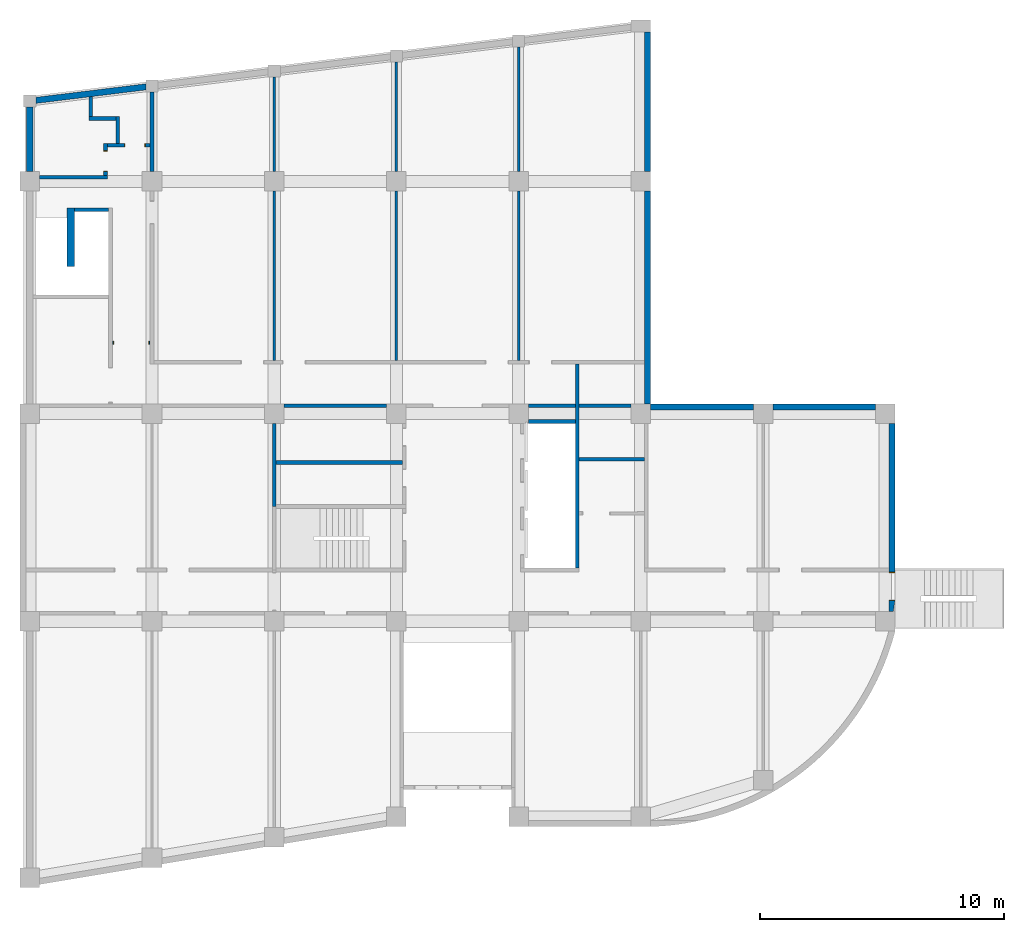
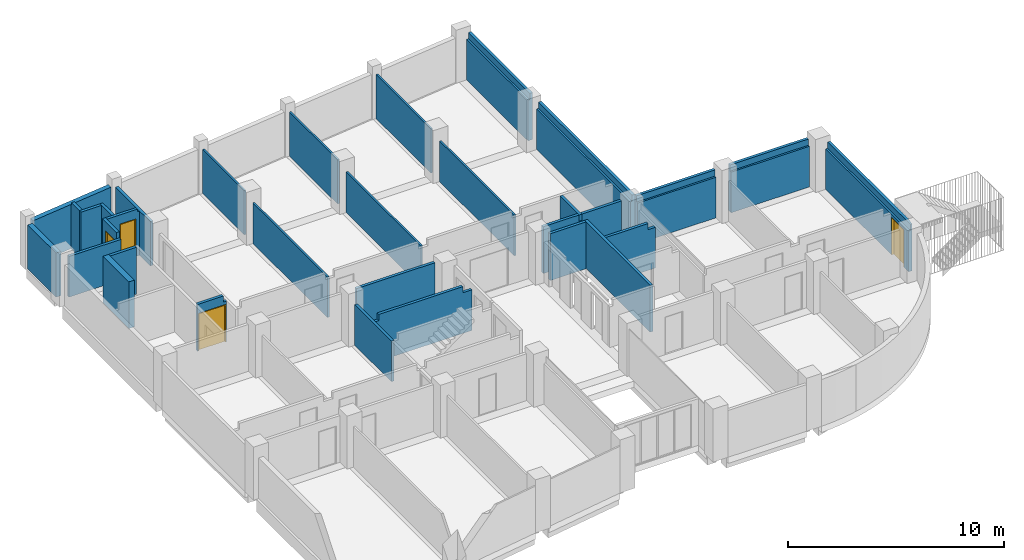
# One storey, part 6 of 7: 30 walls, 4 doors, 4 openings.
"""IFC2X3 building model written with IfcOpenShell, lengths in millimetres."""

from ifc_helpers import new_model, entity, si_unit, converted_unit, derived_unit, money_unit, direction, frame, origin_with_axes, place, context, subcontext, project, spatial, open_shell, faceted_brep, surface_model, material, type_object, element, fill, save


model = new_model("IFC2X3")

# Units and contexts
model_context = context("Model", 3, precision=0.01, world=origin_with_axes(), true_north=direction((0.0, 1.0)))
body_context = subcontext(model_context, "Body", "Model", "MODEL_VIEW")
ifc_project = project(units=[si_unit("LENGTHUNIT", "METRE", prefix="MILLI"), si_unit("AREAUNIT", "SQUARE_METRE"), si_unit("VOLUMEUNIT", "CUBIC_METRE"), converted_unit("PLANEANGLEUNIT", "DEGREE", entity("IfcPlaneAngleMeasure", 0.0174532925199), si_unit("PLANEANGLEUNIT", "RADIAN"), dimensions=[0, 0, 0, 0, 0, 0, 0]), si_unit("SOLIDANGLEUNIT", "STERADIAN"), money_unit("JPY"), converted_unit("TIMEUNIT", "Year", entity("IfcTimeMeasure", 31556926.0), si_unit("TIMEUNIT", "SECOND"), dimensions=[0, 0, 1, 0, 0, 0, 0]), si_unit("MASSUNIT", "GRAM", prefix="KILO"), si_unit("THERMODYNAMICTEMPERATUREUNIT", "DEGREE_CELSIUS"), si_unit("LUMINOUSINTENSITYUNIT", "LUMEN"), si_unit("ENERGYUNIT", "JOULE", prefix="MEGA"), derived_unit("THERMALCONDUCTANCEUNIT", [(si_unit("POWERUNIT", "WATT"), 1), (si_unit("LENGTHUNIT", "METRE"), -1), (si_unit("THERMODYNAMICTEMPERATUREUNIT", "KELVIN"), -1)]), derived_unit("SPECIFICHEATCAPACITYUNIT", [(si_unit("ENERGYUNIT", "JOULE"), 1), (si_unit("MASSUNIT", "GRAM", prefix="KILO"), -1), (si_unit("THERMODYNAMICTEMPERATUREUNIT", "KELVIN"), -1)]), derived_unit("MASSDENSITYUNIT", [(si_unit("MASSUNIT", "GRAM", prefix="KILO"), 1), (si_unit("VOLUMEUNIT", "CUBIC_METRE"), -1)])], contexts=[model_context])

# Site, building, storey
site_placement = place(None, origin_with_axes())
site = spatial("IfcSite", under=ifc_project, at=site_placement, Name="サイト", CompositionType="ELEMENT")
building_placement = place(site_placement, origin_with_axes())
building = spatial("IfcBuilding", under=site, at=building_placement, Name="建築", CompositionType="ELEMENT")
storey_placement = place(building_placement, frame((0.0, 0.0, 3000.0), z_axis=(0.0, 0.0, 1.0), x_axis=(1.0, 0.0, 0.0)))
storey = spatial("IfcBuildingStorey", under=building, at=storey_placement, Name="2FL", CompositionType="ELEMENT", Elevation=3000.0)

# Walls
ifc_material_1 = material(Name="コンクリート")
wall_type_1 = type_object("IfcWallType", Name="コンクリート 150", PredefinedType="NOTDEFINED")
wall_1_placement = place(storey_placement, frame((20150.0, 8175.0, 0.0), z_axis=(0.0, 0.0, 1.0), x_axis=(1.0, 0.0, 0.0)))
element("IfcWall", 1, at=wall_1_placement, inside=storey, type_object=wall_type_1, material=ifc_material_1, Name="W8", context=body_context, shape_type="Brep", body=[
    faceted_brep([(2175.0, 75.0, 0.0), (250.0, 75.0, 0.0), (250.0, 75.0, 2650.0), (2175.0, 75.0, 2650.0), (2175.0, -75.0, 0.0), (250.0, -75.0, 0.0), (250.0, -75.0, 2650.0), (2175.0, -75.0, 2650.0)], [[[0, 1, 2, 3]], [[4, 5, 1, 0]], [[5, 6, 2, 1]], [[3, 2, 6, 7]], [[7, 4, 0, 3]], [[7, 6, 5, 4]]]),
])
wall_2_placement = place(storey_placement, frame((10000.0, 6500.0, 0.0), z_axis=(0.0, 0.0, 1.0), x_axis=(1.0, 0.0, 0.0)))
element("IfcWall", 2, at=wall_2_placement, inside=storey, type_object=wall_type_1, material=ifc_material_1, Name="W5", context=body_context, shape_type="Brep", body=[
    faceted_brep([(75.0, 75.0, 0.0), (75.0, 75.0, 2300.0), (250.0, 75.0, 2300.0), (250.0, 75.0, 2650.0), (4750.0, 75.0, 2650.0), (4750.0, 75.0, 2300.0), (5250.0, 75.0, 2300.0), (5249.99999555, 75.0, 0.0), (75.0, -75.0, 0.0), (75.0, -75.0, 2300.0), (250.0, -75.0, 2300.0), (250.0, -75.0, 2650.0), (4750.0, -75.0, 2650.0), (4750.0, -75.0, 2300.0), (5250.0, -75.0, 2300.0), (5249.99999555, -75.0, 0.0)], [[[0, 1, 2, 3, 4, 5, 6, 7]], [[8, 9, 1, 0]], [[10, 2, 1, 9]], [[10, 11, 3, 2]], [[4, 3, 11, 12]], [[13, 5, 4, 12]], [[13, 14, 6, 5]], [[7, 6, 14, 15]], [[8, 0, 7, 15]], [[11, 10, 9, 8, 15, 14, 13, 12]]]),
])

# Wall, opening, door
wall_3_placement = place(storey_placement, frame((5000.0, 11400.0, 0.0), z_axis=(0.0, 0.0, 1.0), x_axis=(-1.0, 0.0, 0.0)))
wall_3 = element("IfcWall", 3, at=wall_3_placement, inside=storey, type_object=wall_type_1, material=ifc_material_1, Name="W9", context=body_context, shape_type="Brep", body=[
    faceted_brep([(1580.0, -75.0, 2130.0), (1580.0, -75.0, 0.0), (1625.0, -75.0, 0.0), (1625.0, -75.0, 2650.0), (250.0, -75.0, 2650.0), (250.0, -75.0, 2300.0), (75.0, -75.0, 2300.0), (75.0, -75.0, 0.0), (120.0, -75.0, 0.0), (120.0, -75.0, 2130.0), (1580.0, 75.0, 2130.0), (1580.0, 75.0, 0.0), (1625.0, 75.0, 0.0), (1625.0, 75.0, 2650.0), (250.0, 75.0, 2650.0), (250.0, 75.0, 2300.0), (75.0, 75.0, 2300.0), (75.0, 75.0, 0.0), (120.0, 75.0, 0.0), (120.0, 75.0, 2130.0)], [[[0, 1, 2, 3, 4, 5, 6, 7, 8, 9]], [[1, 0, 10, 11]], [[1, 11, 12, 2]], [[12, 13, 3, 2]], [[14, 4, 3, 13]], [[5, 4, 14, 15]], [[16, 6, 5, 15]], [[6, 16, 17, 7]], [[18, 8, 7, 17]], [[9, 8, 18, 19]], [[0, 9, 19, 10]], [[19, 18, 17, 16, 15, 14, 13, 12, 11, 10]]]),
])
opening_1_placement = place(wall_3_placement, frame((850.0, 0.0, 0.0), z_axis=(0.0, 0.0, 1.0), x_axis=(1.0, 0.0, 0.0)))
opening_1 = element("IfcOpeningElement", 4, at=opening_1_placement, cuts=wall_3, Name="SD3", context=body_context, shape_type="Brep", body=[
    faceted_brep([(-730.0, -160.0, 0.0), (-730.0, -160.0, 2130.0), (-730.0, 160.0, 2130.0), (-730.0, 160.0, 0.0), (730.0, -160.0, 0.0), (730.0, -160.0, 2130.0), (730.0, 160.0, 2130.0), (730.0, 160.0, 0.0)], [[[0, 1, 2, 3]], [[0, 4, 5, 1]], [[1, 5, 6, 2]], [[3, 2, 6, 7]], [[4, 0, 3, 7]], [[5, 4, 7, 6]]]),
])
door_style = type_object("IfcDoorStyle", Name="片開き戸", ConstructionType="NOTDEFINED", OperationType="NOTDEFINED", ParameterTakesPrecedence=False, Sizeable=False)
door_1_placement = place(opening_1_placement, frame((700.0, 0.0, 0.0), z_axis=(0.0, 0.0, 1.0), x_axis=(-1.0, 0.0, 0.0)))
door_1 = element("IfcDoor", 5, at=door_1_placement, inside=storey, type_object=door_style, Name="SD3", OverallHeight=2165.0, OverallWidth=1530.0, context=body_context, shape_type="SurfaceModel", body=[
    surface_model("IfcShellBasedSurfaceModel", [(1400.0, 0.0, 0.0), (0.0, 0.0, 0.0), (0.0, 0.0, 2100.0), (1400.0, 0.0, 2100.0)], [open_shell([[[0, 1, 2, 3]]])]),
    surface_model("IfcShellBasedSurfaceModel", [(1430.0, 75.0, 0.0), (1400.0, 75.0, 0.0), (1400.0, 75.0, 2100.0), (0.0, 75.0, 2100.0), (0.0, 75.0, 0.0), (-30.0, 75.0, 0.0), (-30.0, 75.0, 2130.0), (1430.0, 75.0, 2130.0)], [open_shell([[[0, 1, 2, 3, 4, 5, 6, 7]]])]),
    surface_model("IfcShellBasedSurfaceModel", [(1430.0, -75.0, 0.0), (1400.0, -75.0, 0.0), (1400.0, -75.0, 2100.0), (0.0, -75.0, 2100.0), (0.0, -75.0, 0.0), (-30.0, -75.0, 0.0), (-30.0, -75.0, 2130.0), (1430.0, -75.0, 2130.0)], [open_shell([[[0, 1, 2, 3, 4, 5, 6, 7]]])]),
    surface_model("IfcShellBasedSurfaceModel", [(1400.0, 75.0, 0.0), (1400.0, -75.0, 0.0), (1400.0, -75.0, 2100.0), (1400.0, 75.0, 2100.0), (1430.0, 75.0, 0.0), (1430.0, -75.0, 0.0), (0.0, -75.0, 2100.0), (0.0, 75.0, 2100.0), (1430.0, 75.0, 2130.0), (1430.0, -75.0, 2130.0), (0.0, -75.0, 0.0), (0.0, 75.0, 0.0), (-30.0, 75.0, 2130.0), (-30.0, -75.0, 2130.0), (-30.0, -75.0, 0.0), (-30.0, 75.0, 0.0)], [open_shell([[[0, 1, 2, 3]], [[4, 5, 1, 0]], [[3, 2, 6, 7]], [[8, 9, 5, 4]], [[7, 6, 10, 11]], [[12, 13, 9, 8]], [[11, 10, 14, 15]], [[15, 14, 13, 12]]])]),
])
fill(opening_1, door_1)

# Walls
wall_4_placement = place(storey_placement, frame((3300.0, 16832.5237799, 0.0), z_axis=(0.0, 0.0, 1.0), x_axis=(-1.0, 0.0, 0.0)))
element("IfcWall", 6, at=wall_4_placement, inside=storey, type_object=wall_type_1, material=ifc_material_1, Name="W9", context=body_context, shape_type="Brep", body=[
    faceted_brep([(1475.0, -75.0, 0.0), (1475.0, -75.0, 2650.0), (75.0, -75.0, 2650.0), (75.0, -75.0, 0.0), (1475.0, 75.0, 0.0), (1475.0, 75.0, 2650.0), (75.0, 75.0, 2650.0), (75.0, 75.0, 0.0)], [[[0, 1, 2, 3]], [[4, 5, 1, 0]], [[5, 6, 2, 1]], [[3, 2, 6, 7]], [[7, 4, 0, 3]], [[7, 6, 5, 4]]]),
])
wall_5_placement = place(storey_placement, frame((10000.0, 4700.0, 0.0), z_axis=(0.0, 0.0, 1.0), x_axis=(0.0, 1.0, 0.0)))
element("IfcWall", 7, at=wall_5_placement, inside=storey, type_object=wall_type_1, material=ifc_material_1, Name="W1", context=body_context, shape_type="Brep", body=[
    faceted_brep([(0.0, -75.0, 0.0), (3400.0, -75.0, 0.0), (3400.0, -75.0, 2300.0), (0.0, -75.0, 2300.0), (0.0, 75.0, 0.0), (3400.0, 75.0, 0.0), (3400.0, 75.0, 2300.0), (0.0, 75.0, 2300.0)], [[[0, 1, 2, 3]], [[4, 5, 1, 0]], [[5, 6, 2, 1]], [[3, 2, 6, 7]], [[4, 0, 3, 7]], [[7, 6, 5, 4]]]),
])
wall_6_placement = place(storey_placement, frame((0.0, 18174.9999927, 0.0), z_axis=(0.0, 0.0, 1.0), x_axis=(1.0, 0.0, 0.0)))
element("IfcWall", 8, at=wall_6_placement, inside=storey, type_object=wall_type_1, material=ifc_material_1, Name="W1", context=body_context, shape_type="Brep", body=[
    faceted_brep([(3175.0, 75.0, 0.0), (400.0, 75.0, 0.0), (400.0, 75.0000072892, 2300.0), (3175.0, 75.0000072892, 2300.0), (3175.0, -75.0, 0.0), (400.0, -75.0, 0.0), (400.0, -75.0, 2300.0), (3175.0, -75.0, 2300.0)], [[[0, 1, 2, 3]], [[4, 5, 1, 0]], [[5, 6, 2, 1]], [[3, 2, 6, 7]], [[4, 0, 3, 7]], [[7, 6, 5, 4]]]),
])
wall_7_placement = place(storey_placement, frame((22400.0, 2100.0, 0.0), z_axis=(0.0, 0.0, 1.0), x_axis=(0.0, 1.0, 0.0)))
element("IfcWall", 9, at=wall_7_placement, inside=storey, type_object=wall_type_1, material=ifc_material_1, Name="W8", context=body_context, shape_type="Brep", body=[
    faceted_brep([(8425.0, 75.0, 2650.0), (6650.0, 75.0, 2650.0), (6650.0, -75.0, 2650.0), (8425.0, -75.0, 2650.0), (6150.0, 75.0, 2300.0), (6650.0, 75.0, 2300.0), (8425.0, 75.0, 0.0), (75.0, 75.0, 0.0), (75.0, 75.0, 2650.0), (6150.0, 75.0, 2650.0), (6650.0, -75.0, 2300.0), (6150.0, -75.0, 2300.0), (6150.0, -75.0, 2650.0), (75.0, -75.0, 2650.0), (75.0, -75.0, 0.0), (8425.0, -75.0, 0.0)], [[[0, 1, 2, 3]], [[4, 5, 1, 0, 6, 7, 8, 9]], [[5, 10, 2, 1]], [[10, 11, 12, 13, 14, 15, 3, 2]], [[15, 6, 0, 3]], [[4, 11, 10, 5]], [[14, 7, 6, 15]], [[7, 14, 13, 8]], [[13, 12, 9, 8]], [[4, 9, 12, 11]]]),
])
wall_8_placement = place(storey_placement, frame((22400.0, 6625.000045, 0.0), z_axis=(0.0, 0.0, 1.0), x_axis=(1.0, 0.0, 0.0)))
element("IfcWall", 10, at=wall_8_placement, inside=storey, type_object=wall_type_1, material=ifc_material_1, Name="W8", context=body_context, shape_type="Brep", body=[
    faceted_brep([(75.0, 75.0, 2650.0), (2350.0, 75.0, 2650.0), (2350.0, 75.0, 2300.0), (2749.9999795, 75.0, 2300.0), (2749.9999795, 75.0, 0.0), (75.0, 75.0, 0.0), (75.0, -75.0, 2650.0), (2350.0, -75.0, 2650.0), (2350.0, -75.0, 2300.0), (2749.9999795, -75.0, 2300.0), (2749.9999795, -75.0, 0.0), (75.0, -75.0, 0.0)], [[[0, 1, 2, 3, 4, 5]], [[6, 7, 1, 0]], [[8, 2, 1, 7]], [[8, 9, 3, 2]], [[4, 3, 9, 10]], [[11, 5, 4, 10]], [[5, 11, 6, 0]], [[9, 8, 7, 6, 11, 10]]]),
])
wall_9_placement = place(storey_placement, frame((20000.0, 8825.000045, 0.0), z_axis=(0.0, 0.0, 1.0), x_axis=(1.0, 0.0, 0.0)))
element("IfcWall", 11, at=wall_9_placement, inside=storey, type_object=wall_type_1, material=ifc_material_1, Name="W6", context=body_context, shape_type="Brep", body=[
    faceted_brep([(2325.0, 75.0, 0.0), (400.0, 74.999955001, 0.0), (400.0, 74.999955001, 2650.0), (2325.0, 75.0, 2650.0), (2325.0, -75.0, 0.0), (400.0, -75.0, 0.0), (400.0, -75.0, 2650.0), (2325.0, -75.0, 2650.0)], [[[0, 1, 2, 3]], [[4, 5, 1, 0]], [[5, 6, 2, 1]], [[3, 2, 6, 7]], [[7, 4, 0, 3]], [[7, 6, 5, 4]]]),
    faceted_brep([(2475.0, -75.0, 2650.0), (4600.0, -75.000042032, 2650.0), (4600.0, 74.999955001, 2650.0), (2475.0, 75.0, 2650.0), (2475.0, -75.0, 0.0), (4600.0, -75.0, 0.0), (4600.0, 74.999955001, 0.0), (2475.0, 75.0, 0.0)], [[[0, 1, 2, 3]], [[4, 5, 1, 0]], [[5, 6, 2, 1]], [[3, 2, 6, 7]], [[3, 7, 4, 0]], [[7, 6, 5, 4]]]),
])
wall_10_placement = place(storey_placement, frame((15000.0, 8825.000045, 0.0), z_axis=(0.0, 0.0, 1.0), x_axis=(-1.0, 0.0, 0.0)))
element("IfcWall", 12, at=wall_10_placement, inside=storey, type_object=wall_type_1, material=ifc_material_1, Name="W8", context=body_context, shape_type="Brep", body=[
    faceted_brep([(4600.0, 75.0, 2650.0), (400.0, 75.0, 2650.0), (400.0, -74.999955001, 2650.0), (4600.0, -74.999955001, 2650.0), (4600.0, 75.0, 0.0), (400.0, 75.0, 0.0), (400.0, -74.999955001, 0.0), (4600.0, -74.999955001, 0.0)], [[[0, 1, 2, 3]], [[4, 5, 1, 0]], [[5, 6, 2, 1]], [[3, 2, 6, 7]], [[4, 0, 3, 7]], [[7, 6, 5, 4]]]),
])
wall_11_placement = place(storey_placement, frame((5000.0, 21896.9524811, 0.0), z_axis=(0.0, 0.0, 1.0), x_axis=(0.0, -1.0, 0.0)))
element("IfcWall", 13, at=wall_11_placement, inside=storey, type_object=wall_type_1, material=ifc_material_1, Name="W1", context=body_context, shape_type="Brep", body=[
    faceted_brep([(250.0, -75.0, 2500.0), (3496.95248113, -75.0, 2500.0), (3496.95248113, 75.0, 2500.0), (250.0, 75.0, 2500.0), (250.0, -75.0, 0.0), (3496.95248113, -75.0, 0.0), (3496.95248113, 75.0, 0.0), (250.0, 75.0, 0.0)], [[[0, 1, 2, 3]], [[4, 5, 1, 0]], [[5, 6, 2, 1]], [[3, 2, 6, 7]], [[4, 0, 3, 7]], [[7, 6, 5, 4]]]),
])

# Wall, opening, door
wall_12_placement = place(storey_placement, frame((3100.0, 18174.9999927, 0.0), z_axis=(0.0, 0.0, 1.0), x_axis=(0.0, 1.0, 0.0)))
wall_12 = element("IfcWall", 14, at=wall_12_placement, inside=storey, type_object=wall_type_1, material=ifc_material_1, Name="W1", context=body_context, shape_type="Brep", body=[
    faceted_brep([(220.0, -75.0, 0.0), (220.0, -75.0, 2130.0), (1080.0, -75.0, 2130.0), (1080.0, -75.0, 0.0), (1375.0, -75.0, 0.0), (1375.0, -75.0, 2650.0), (75.0, -75.0, 2650.0), (75.0, -75.0, 0.0), (220.0, 75.0, 0.0), (220.0, 75.0, 2130.0), (1080.0, 75.0, 2130.0), (1080.0, 75.0, 0.0), (1375.0, 75.0, 0.0), (1375.0, 75.0, 2650.0), (75.0, 75.0, 2650.0), (75.0, 75.0, 0.0)], [[[0, 1, 2, 3, 4, 5, 6, 7]], [[1, 0, 8, 9]], [[2, 1, 9, 10]], [[3, 2, 10, 11]], [[3, 11, 12, 4]], [[12, 13, 5, 4]], [[6, 5, 13, 14]], [[7, 6, 14, 15]], [[8, 0, 7, 15]], [[9, 8, 15, 14, 13, 12, 11, 10]]]),
])
opening_2_placement = place(wall_12_placement, frame((650.0, 0.0, 0.0), z_axis=(0.0, 0.0, 1.0), x_axis=(1.0, 0.0, 0.0)))
opening_2 = element("IfcOpeningElement", 15, at=opening_2_placement, cuts=wall_12, Name="SD4", context=body_context, shape_type="Brep", body=[
    faceted_brep([(-430.0, -160.0, 0.0), (-430.0, -160.0, 2130.0), (-430.0, 160.0, 2130.0), (-430.0, 160.0, 0.0), (430.0, -160.0, 0.0), (430.0, -160.0, 2130.0), (430.0, 160.0, 2130.0), (430.0, 160.0, 0.0)], [[[0, 1, 2, 3]], [[0, 4, 5, 1]], [[1, 5, 6, 2]], [[3, 2, 6, 7]], [[4, 0, 3, 7]], [[5, 4, 7, 6]]]),
])
door_2_placement = place(opening_2_placement, frame((-400.0, 0.0, 0.0), z_axis=(0.0, 0.0, 1.0), x_axis=(1.0, 0.0, 0.0)))
door_2 = element("IfcDoor", 16, at=door_2_placement, inside=storey, type_object=door_style, Name="SD4", OverallHeight=2165.0, OverallWidth=930.0, context=body_context, shape_type="SurfaceModel", body=[
    surface_model("IfcShellBasedSurfaceModel", [(0.0, 0.0, 0.0), (0.0, 0.0, 2100.0), (800.0, 0.0, 2100.0), (800.0, 0.0, 0.0)], [open_shell([[[0, 1, 2, 3]]])]),
    surface_model("IfcShellBasedSurfaceModel", [(-30.0, 75.0, 0.0), (-30.0, 75.0, 2130.0), (830.0, 75.0, 2130.0), (830.0, 75.0, 0.0), (800.0, 75.0, 0.0), (800.0, 75.0, 2100.0), (0.0, 75.0, 2100.0), (0.0, 75.0, 0.0)], [open_shell([[[0, 1, 2, 3, 4, 5, 6, 7]]])]),
    surface_model("IfcShellBasedSurfaceModel", [(-30.0, -75.0, 0.0), (-30.0, -75.0, 2130.0), (830.0, -75.0, 2130.0), (830.0, -75.0, 0.0), (800.0, -75.0, 0.0), (800.0, -75.0, 2100.0), (0.0, -75.0, 2100.0), (0.0, -75.0, 0.0)], [open_shell([[[0, 1, 2, 3, 4, 5, 6, 7]]])]),
    surface_model("IfcShellBasedSurfaceModel", [(0.0, 75.0, 0.0), (0.0, 75.0, 2100.0), (0.0, -75.0, 2100.0), (0.0, -75.0, 0.0), (800.0, 75.0, 2100.0), (800.0, -75.0, 2100.0), (-30.0, 75.0, 0.0), (-30.0, -75.0, 0.0), (800.0, 75.0, 0.0), (800.0, -75.0, 0.0), (-30.0, 75.0, 2130.0), (-30.0, -75.0, 2130.0), (830.0, 75.0, 0.0), (830.0, -75.0, 0.0), (830.0, 75.0, 2130.0), (830.0, -75.0, 2130.0)], [open_shell([[[0, 1, 2, 3]], [[1, 4, 5, 2]], [[6, 0, 3, 7]], [[4, 8, 9, 5]], [[10, 6, 7, 11]], [[8, 12, 13, 9]], [[14, 10, 11, 15]], [[12, 14, 15, 13]]])]),
])
fill(opening_2, door_2)

wall_13_placement = place(storey_placement, frame((3100.0, 19474.9999927, 0.0), z_axis=(0.0, 0.0, 1.0), x_axis=(1.0, 0.0, 0.0)))
wall_13 = element("IfcWall", 17, at=wall_13_placement, inside=storey, type_object=wall_type_1, material=ifc_material_1, Name="W2", context=body_context, shape_type="Brep", body=[
    faceted_brep([(770.0, 75.0, 2130.0), (770.0, 75.0, 0.0), (75.0, 75.0, 0.0), (75.0, 75.0, 2650.0), (1700.0, 75.0, 2650.0), (1700.0, 75.0, 2500.0), (1825.0, 75.0, 2500.0), (1825.0, 75.0, 0.0), (1630.0, 75.0, 0.0), (1630.0, 75.0, 2130.0), (770.0, -75.0, 2130.0), (770.0, -75.0, 0.0), (75.0, -75.0, 0.0), (75.0, -75.0, 2650.0), (1700.0, -75.0, 2650.0), (1700.0, -75.0, 2500.0), (1825.0, -75.0, 2500.0), (1825.0, -75.0, 0.0), (1630.0, -75.0, 0.0), (1630.0, -75.0, 2130.0)], [[[0, 1, 2, 3, 4, 5, 6, 7, 8, 9]], [[1, 0, 10, 11]], [[1, 11, 12, 2]], [[12, 13, 3, 2]], [[14, 4, 3, 13]], [[5, 4, 14, 15]], [[16, 6, 5, 15]], [[6, 16, 17, 7]], [[18, 8, 7, 17]], [[9, 8, 18, 19]], [[0, 9, 19, 10]], [[19, 18, 17, 16, 15, 14, 13, 12, 11, 10]]]),
])
opening_3_placement = place(wall_13_placement, frame((1200.0, 0.0, 0.0), z_axis=(0.0, 0.0, 1.0), x_axis=(1.0, 0.0, 0.0)))
opening_3 = element("IfcOpeningElement", 18, at=opening_3_placement, cuts=wall_13, Name="SD3", context=body_context, shape_type="Brep", body=[
    faceted_brep([(430.0, 160.0, 0.0), (430.0, 160.0, 2130.0), (430.0, -160.0, 2130.0), (430.0, -160.0, 0.0), (-430.0, 160.0, 0.0), (-430.0, 160.0, 2130.0), (-430.0, -160.0, 2130.0), (-430.0, -160.0, 0.0)], [[[0, 1, 2, 3]], [[0, 4, 5, 1]], [[1, 5, 6, 2]], [[3, 2, 6, 7]], [[4, 0, 3, 7]], [[5, 4, 7, 6]]]),
])
door_3_placement = place(opening_3_placement, frame((-400.0, 0.0, 0.0), z_axis=(0.0, 0.0, 1.0), x_axis=(1.0, 0.0, 0.0)))
door_3 = element("IfcDoor", 19, at=door_3_placement, inside=storey, type_object=door_style, Name="SD3", OverallHeight=2165.0, OverallWidth=930.0, context=body_context, shape_type="SurfaceModel", body=[
    surface_model("IfcShellBasedSurfaceModel", [(800.0, 0.0, 0.0), (0.0, 0.0, 0.0), (0.0, 0.0, 2100.0), (800.0, 0.0, 2100.0)], [open_shell([[[0, 1, 2, 3]]])]),
    surface_model("IfcShellBasedSurfaceModel", [(830.0, 75.0, 0.0), (800.0, 75.0, 0.0), (800.0, 75.0, 2100.0), (0.0, 75.0, 2100.0), (0.0, 75.0, 0.0), (-30.0, 75.0, 0.0), (-30.0, 75.0, 2130.0), (830.0, 75.0, 2130.0)], [open_shell([[[0, 1, 2, 3, 4, 5, 6, 7]]])]),
    surface_model("IfcShellBasedSurfaceModel", [(830.0, -75.0, 0.0), (800.0, -75.0, 0.0), (800.0, -75.0, 2100.0), (0.0, -75.0, 2100.0), (0.0, -75.0, 0.0), (-30.0, -75.0, 0.0), (-30.0, -75.0, 2130.0), (830.0, -75.0, 2130.0)], [open_shell([[[0, 1, 2, 3, 4, 5, 6, 7]]])]),
    surface_model("IfcShellBasedSurfaceModel", [(800.0, 75.0, 0.0), (800.0, -75.0, 0.0), (800.0, -75.0, 2100.0), (800.0, 75.0, 2100.0), (830.0, 75.0, 0.0), (830.0, -75.0, 0.0), (0.0, -75.0, 2100.0), (0.0, 75.0, 2100.0), (830.0, 75.0, 2130.0), (830.0, -75.0, 2130.0), (0.0, -75.0, 0.0), (0.0, 75.0, 0.0), (-30.0, 75.0, 2130.0), (-30.0, -75.0, 2130.0), (-30.0, -75.0, 0.0), (-30.0, 75.0, 0.0)], [open_shell([[[0, 1, 2, 3]], [[4, 5, 1, 0]], [[3, 2, 6, 7]], [[8, 9, 5, 4]], [[7, 6, 10, 11]], [[12, 13, 9, 8]], [[11, 10, 14, 15]], [[15, 14, 13, 12]]])]),
])
fill(opening_3, door_3)

# Walls
wall_14_placement = place(storey_placement, frame((3600.0, 19474.9999927, 0.0), z_axis=(0.0, 0.0, 1.0), x_axis=(0.0, 1.0, 0.0)))
element("IfcWall", 20, at=wall_14_placement, inside=storey, type_object=wall_type_1, material=ifc_material_1, Name="W3", context=body_context, shape_type="Brep", body=[
    faceted_brep([(1175.0, 75.0, 0.0), (1175.0, 75.0, 2650.0), (1175.0, -75.0, 2650.0), (1175.0, -75.0, 0.0), (75.0, 75.0, 0.0), (75.0, 75.0, 2650.0), (75.0, -75.0, 2650.0), (75.0, -75.0, 0.0)], [[[0, 1, 2, 3]], [[4, 5, 1, 0]], [[5, 6, 2, 1]], [[3, 2, 6, 7]], [[4, 0, 3, 7]], [[7, 6, 5, 4]]]),
])
wall_15_placement = place(storey_placement, frame((3600.0, 20574.9999927, 0.0), z_axis=(0.0, 0.0, 1.0), x_axis=(-1.0, 0.0, 0.0)))
element("IfcWall", 21, at=wall_15_placement, inside=storey, type_object=wall_type_1, material=ifc_material_1, Name="W4", context=body_context, shape_type="Brep", body=[
    faceted_brep([(1175.0, -75.0, 0.0), (1175.0, -75.0, 2650.0), (75.0, -75.0, 2650.0), (75.0, -75.0, 0.0), (1175.0, 75.0, 0.0), (1175.0, 75.0, 2650.0), (75.0, 75.0, 2650.0), (75.0, 75.0, 0.0)], [[[0, 1, 2, 3]], [[4, 5, 1, 0]], [[5, 6, 2, 1]], [[3, 2, 6, 7]], [[7, 4, 0, 3]], [[7, 6, 5, 4]]]),
])
wall_16_placement = place(storey_placement, frame((2500.0, 20574.9999927, 0.0), z_axis=(0.0, 0.0, 1.0), x_axis=(0.0, 1.0, 0.0)))
element("IfcWall", 22, at=wall_16_placement, inside=storey, type_object=wall_type_1, material=ifc_material_1, Name="W5", context=body_context, shape_type="Brep", body=[
    faceted_brep([(879.843515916, 75.0, 0.0), (879.843515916, 75.0, 2500.0), (898.261200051, -75.0, 2500.0), (898.261200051, -75.0, 0.0), (804.280279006, 75.0, 2650.0), (804.280279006, 75.0, 2500.0), (75.0, 75.0, 0.0), (75.0, 75.0, 2650.0), (822.697963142, -75.0, 2500.0), (822.697963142, -75.0, 2650.0), (75.0, -75.0, 2650.0), (75.0, -75.0, 0.0)], [[[0, 1, 2, 3]], [[4, 5, 1, 0, 6, 7]], [[5, 8, 2, 1]], [[2, 8, 9, 10, 11, 3]], [[11, 6, 0, 3]], [[5, 4, 9, 8]], [[6, 11, 10, 7]], [[10, 9, 4, 7]]]),
])
wall_type_2 = type_object("IfcWallType", Name="コンクリート 250", PredefinedType="NOTDEFINED")
wall_17_placement = place(storey_placement, frame((30000.0, 8775.0, 0.0), z_axis=(0.0, 0.0, 1.0), x_axis=(-1.0, 0.0, 0.0)))
element("IfcWall", 23, at=wall_17_placement, inside=storey, type_object=wall_type_2, material=ifc_material_1, Name="W1", context=body_context, shape_type="Brep", body=[
    faceted_brep([(4600.0, 25.0, 2650.0), (400.0, 25.0, 2650.0), (400.0, -125.0, 2650.0), (4600.0, -125.0, 2650.0), (4600.0, 25.0, 2300.0), (400.0, 25.0, 2300.0), (400.0, 125.0, 0.0), (400.0, -125.0, 0.0), (400.0, 125.0, 2300.0), (4600.0, -125.0, 0.0), (4600.0, 125.0, 0.0), (4600.0, 125.0, 2300.0)], [[[0, 1, 2, 3]], [[4, 5, 1, 0]], [[6, 7, 2, 1, 5, 8]], [[3, 2, 7, 9]], [[4, 0, 3, 9, 10, 11]], [[11, 8, 5, 4]], [[9, 7, 6, 10]], [[10, 6, 8, 11]]]),
])

# Wall, opening, door
wall_18_placement = place(storey_placement, frame((35274.9999654, -400.0, 0.0), z_axis=(0.0, 0.0, 1.0), x_axis=(0.0, 1.0, 0.0)))
wall_18 = element("IfcWall", 24, at=wall_18_placement, inside=storey, type_object=wall_type_2, material=ifc_material_1, Name="W0", context=body_context, shape_type="Brep", body=[
    faceted_brep([(2408.94696441, -125.0, 2130.0), (2408.94696441, -125.0, 0.0), (8500.0, -125.000034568, 0.0), (8500.0, -125.000034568, 2650.0), (1267.79551643, -125.000004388, 2650.0), (1267.79551643, -125.0, 2130.0), (2408.94696441, 125.0, 2130.0), (2408.94696441, 125.0, 0.0), (8500.0, 125.0, 0.0), (8500.0, 125.0, 2300.0), (8500.0, 24.9999654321, 2300.0), (8500.0, 24.9999654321, 2650.0), (800.0, 24.9999654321, 2650.0), (800.0, -49.6592128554, 2650.0), (925.128562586, -72.9281833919, 2650.0), (1242.6191428, -121.906495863, 2650.0), (1248.94696441, -122.684016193, 2130.0), (1242.6191428, -121.906495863, 0.0), (1248.94696441, -122.684016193, 0.0), (1248.94696441, 125.0, 2130.0), (1248.94696441, 125.0, 0.0), (800.0, 125.0, 0.0), (800.0, 125.0, 2300.0), (800.0, 24.9999654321, 2300.0), (800.0, -49.6592128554, 0.0), (925.128562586, -72.9281833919, 0.0)], [[[0, 1, 2, 3, 4, 5]], [[1, 0, 6, 7]], [[1, 7, 8, 2]], [[9, 10, 11, 3, 2, 8]], [[3, 11, 12, 13, 14, 15, 4]], [[16, 5, 4, 15, 17, 18]], [[0, 5, 16, 19, 6]], [[19, 20, 21, 22, 9, 8, 7, 6]], [[10, 9, 22, 23]], [[11, 10, 23, 12]], [[22, 21, 24, 13, 12, 23]], [[25, 14, 13, 24]], [[15, 14, 25, 17]], [[20, 18, 17, 25, 24, 21]], [[16, 18, 20, 19]]]),
])
opening_4_placement = place(wall_18_placement, frame((1828.94696441, 0.0, 0.0), z_axis=(0.0, 0.0, 1.0), x_axis=(1.0, 0.0, 0.0)))
opening_4 = element("IfcOpeningElement", 25, at=opening_4_placement, cuts=wall_18, Name="FSD2", context=body_context, shape_type="Brep", body=[
    faceted_brep([(-580.0, -260.0, 0.0), (-580.0, -260.0, 2130.0), (-580.0, 260.0, 2130.0), (-580.0, 260.0, 0.0), (580.0, -260.0, 0.0), (580.0, -260.0, 2130.0), (580.0, 260.0, 2130.0), (580.0, 260.0, 0.0)], [[[0, 1, 2, 3]], [[0, 4, 5, 1]], [[1, 5, 6, 2]], [[3, 2, 6, 7]], [[4, 0, 3, 7]], [[5, 4, 7, 6]]]),
])
door_4_placement = place(opening_4_placement, frame((550.0, 0.0, 0.0), z_axis=(0.0, 0.0, 1.0), x_axis=(-1.0, 0.0, 0.0)))
door_4 = element("IfcDoor", 26, at=door_4_placement, inside=storey, type_object=door_style, Name="FSD2", OverallHeight=2165.0, OverallWidth=1230.0, context=body_context, shape_type="SurfaceModel", body=[
    surface_model("IfcShellBasedSurfaceModel", [(1100.0, 0.0, 0.0), (0.0, 0.0, 0.0), (0.0, 0.0, 2100.0), (1100.0, 0.0, 2100.0)], [open_shell([[[0, 1, 2, 3]]])]),
    surface_model("IfcShellBasedSurfaceModel", [(1130.0, 125.0, 0.0), (1100.0, 125.0, 0.0), (1100.0, 125.0, 2100.0), (0.0, 125.0, 2100.0), (0.0, 125.0, 0.0), (-30.0, 125.0, 0.0), (-30.0, 125.0, 2130.0), (1130.0, 125.0, 2130.0)], [open_shell([[[0, 1, 2, 3, 4, 5, 6, 7]]])]),
    surface_model("IfcShellBasedSurfaceModel", [(1130.0, -125.0, 0.0), (1100.0, -125.0, 0.0), (1100.0, -125.0, 2100.0), (0.0, -125.0, 2100.0), (0.0, -125.0, 0.0), (-30.0, -125.0, 0.0), (-30.0, -125.0, 2130.0), (1130.0, -125.0, 2130.0)], [open_shell([[[0, 1, 2, 3, 4, 5, 6, 7]]])]),
    surface_model("IfcShellBasedSurfaceModel", [(1100.0, 125.0, 0.0), (1100.0, -125.0, 0.0), (1100.0, -125.0, 2100.0), (1100.0, 125.0, 2100.0), (1130.0, 125.0, 0.0), (1130.0, -125.0, 0.0), (0.0, -125.0, 2100.0), (0.0, 125.0, 2100.0), (1130.0, 125.0, 2130.0), (1130.0, -125.0, 2130.0), (0.0, -125.0, 0.0), (0.0, 125.0, 0.0), (-30.0, 125.0, 2130.0), (-30.0, -125.0, 2130.0), (-30.0, -125.0, 0.0), (-30.0, 125.0, 0.0)], [open_shell([[[0, 1, 2, 3]], [[4, 5, 1, 0]], [[3, 2, 6, 7]], [[8, 9, 5, 4]], [[7, 6, 10, 11]], [[12, 13, 9, 8]], [[11, 10, 14, 15]], [[15, 14, 13, 12]]])]),
])
fill(opening_4, door_4)

# Walls
wall_19_placement = place(storey_placement, frame((35274.9999654, 8774.99999002, 0.0), z_axis=(0.0, 0.0, 1.0), x_axis=(-1.0, 0.0, 0.0)))
element("IfcWall", 27, at=wall_19_placement, inside=storey, type_object=wall_type_2, material=ifc_material_1, Name="W0", context=body_context, shape_type="Brep", body=[
    faceted_brep([(4874.99996543, 24.9999900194, 2650.0), (674.999965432, 24.9999900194, 2650.0), (674.999965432, -125.000009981, 2650.0), (4874.99996543, -125.000009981, 2650.0), (4874.99996543, 24.9999900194, 2300.0), (674.999965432, 24.9999900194, 2300.0), (674.999965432, 125.0, 0.0), (674.999965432, -125.000009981, 0.0), (674.999965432, 125.0, 2300.0), (4874.99996543, -125.000009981, 0.0), (4874.99996543, 125.0, 0.0), (4874.99996543, 125.0, 2300.0)], [[[0, 1, 2, 3]], [[4, 5, 1, 0]], [[6, 7, 2, 1, 5, 8]], [[3, 2, 7, 9]], [[4, 0, 3, 9, 10, 11]], [[11, 8, 5, 4]], [[9, 7, 6, 10]], [[10, 6, 8, 11]]]),
])
wall_20_placement = place(storey_placement, frame((25275.0000022, 8775.0, 0.0), z_axis=(0.0, 0.0, 1.0), x_axis=(0.0, 1.0, 0.0)))
element("IfcWall", 28, at=wall_20_placement, inside=storey, type_object=wall_type_2, material=ifc_material_1, Name="W2", context=body_context, shape_type="Brep", body=[
    faceted_brep([(125.0, -125.0, 0.0), (8825.0, -124.999997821, 0.0), (8825.0, -124.999997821, 2650.0), (125.000115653, -125.000021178, 2650.0), (125.0, 125.0, 0.0), (8825.0, 125.0, 0.0), (8825.0, 25.0000021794, 2300.0), (8825.0, 24.9999979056, 2650.0), (8825.0, 125.0, 2300.0), (125.000046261, 25.0000021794, 2650.0), (125.000115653, 25.0000021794, 2300.0), (125.0, 125.0, 2300.0)], [[[0, 1, 2, 3]], [[4, 5, 1, 0]], [[6, 7, 2, 1, 5, 8]], [[3, 2, 7, 9]], [[3, 9, 10, 11, 4, 0]], [[11, 8, 5, 4]], [[9, 7, 6, 10]], [[10, 6, 8, 11]]]),
])
wall_21_placement = place(storey_placement, frame((25275.0000022, 18000.0, 0.0), z_axis=(0.0, 0.0, 1.0), x_axis=(0.0, 1.0, 0.0)))
element("IfcWall", 29, at=wall_21_placement, inside=storey, type_object=wall_type_2, material=ifc_material_1, Name="W3", context=body_context, shape_type="Brep", body=[
    faceted_brep([(6102.64369919, 24.9999977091, 2650.0), (400.0, 24.9999977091, 2650.0), (400.0, -124.999997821, 2650.0), (6102.64369919, -124.999997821, 2650.0), (6102.64369919, 25.0000021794, 2300.0), (400.0, 25.0000021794, 2300.0), (400.0, 125.0, 0.0), (400.0, -124.999997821, 0.0), (400.0, 125.0, 2300.0), (6102.64369919, -124.999997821, 0.0), (6102.64369919, 125.0, 0.0), (6102.64369919, 125.0, 2300.0)], [[[0, 1, 2, 3]], [[4, 5, 1, 0]], [[6, 7, 2, 1, 5, 8]], [[3, 2, 7, 9]], [[4, 0, 3, 9, 10, 11]], [[11, 8, 5, 4]], [[9, 7, 6, 10]], [[10, 6, 8, 11]]]),
])
wall_22_placement = place(storey_placement, frame((5000.0, 21896.9524811, 0.0), z_axis=(0.0, 0.0, 1.0), x_axis=(-0.992546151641, -0.121869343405, 0.0)))
element("IfcWall", 30, at=wall_22_placement, inside=storey, type_object=wall_type_2, material=ifc_material_1, Name="W8", context=body_context, shape_type="Brep", body=[
    faceted_brep([(4801.01974104, 125.0, 2500.0), (267.225526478, 125.0, 2500.0), (236.529386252, -125.0, 2500.0), (4770.32360082, -125.0, 2500.0), (4801.01974104, 125.0, 0.0), (267.225526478, 125.0, 0.0), (236.529386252, -125.0, 0.0), (4770.32360082, -125.0, 0.0)], [[[0, 1, 2, 3]], [[4, 5, 1, 0]], [[5, 6, 2, 1]], [[3, 2, 6, 7]], [[4, 0, 3, 7]], [[7, 6, 5, 4]]]),
])
wall_23_placement = place(storey_placement, frame((0.0, 21283.0296766, 0.0), z_axis=(0.0, 0.0, 1.0), x_axis=(0.0, -1.0, 0.0)))
element("IfcWall", 31, at=wall_23_placement, inside=storey, type_object=wall_type_2, material=ifc_material_1, Name="W9", context=body_context, shape_type="Brep", body=[
    faceted_brep([(250.0, -125.0, 2500.0), (2883.02967662, -125.0, 2500.0), (2883.02967662, 125.0, 2500.0), (250.0, 125.0, 2500.0), (250.0, -125.0, 0.0), (2883.02967662, -125.0, 0.0), (2883.02967662, 125.0, 0.0), (250.0, 125.0, 0.0)], [[[0, 1, 2, 3]], [[4, 5, 1, 0]], [[5, 6, 2, 1]], [[3, 2, 6, 7]], [[4, 0, 3, 7]], [[7, 6, 5, 4]]]),
])
wall_type_3 = type_object("IfcWallType", Name="コンクリート 300", PredefinedType="NOTDEFINED")
wall_24_placement = place(storey_placement, frame((1675.0, 16832.5237799, 0.0), z_axis=(0.0, 0.0, 1.0), x_axis=(0.0, -1.0, 0.0)))
element("IfcWall", 32, at=wall_24_placement, inside=storey, type_object=wall_type_3, material=ifc_material_1, Name="W9", context=body_context, shape_type="Brep", body=[
    faceted_brep([(-75.0, -150.0, 0.0), (-75.0, -150.0, 2650.0), (-75.0, 150.0, 2650.0), (-75.0, 150.0, 0.0), (2325.0, -150.0, 0.0), (2325.0, -150.0, 2650.0), (2325.0, 150.0, 2650.0), (2325.0, 150.0, 0.0)], [[[0, 1, 2, 3]], [[4, 5, 1, 0]], [[5, 6, 2, 1]], [[3, 2, 6, 7]], [[0, 3, 7, 4]], [[7, 6, 5, 4]]]),
])
ifc_material_2 = material(Name="石膏ボード")
wall_type_4 = type_object("IfcWallType", Name="石膏ボード 100", PredefinedType="NOTDEFINED")
wall_25_placement = place(storey_placement, frame((20000.0, 23738.7208947, 0.0), z_axis=(0.0, 0.0, 1.0), x_axis=(0.0, -1.0, 0.0)))
element("IfcWall", 33, at=wall_25_placement, inside=storey, type_object=wall_type_4, material=ifc_material_2, Name="W15", context=body_context, shape_type="Brep", body=[
    faceted_brep([(250.0, -50.0, 2500.0), (5338.72089468, -50.0, 2500.0), (5338.72089468, 50.0, 2500.0), (250.0, 50.0, 2500.0), (250.0, -50.0, 0.0), (5338.72089468, -50.0, 0.0), (5338.72089468, 50.0, 0.0), (250.0, 50.0, 0.0)], [[[0, 1, 2, 3]], [[4, 5, 1, 0]], [[5, 6, 2, 1]], [[3, 2, 6, 7]], [[4, 0, 3, 7]], [[7, 6, 5, 4]]]),
])
wall_26_placement = place(storey_placement, frame((15000.0, 18000.0, 0.0), z_axis=(0.0, 0.0, 1.0), x_axis=(0.0, 1.0, 0.0)))
element("IfcWall", 34, at=wall_26_placement, inside=storey, type_object=wall_type_4, material=ifc_material_2, Name="W15", context=body_context, shape_type="Brep", body=[
    faceted_brep([(4874.79809016, 50.0, 2500.0), (400.0, 50.0, 2500.0), (400.0, -50.0, 2500.0), (4874.79809016, -50.0, 2500.0), (4874.79809016, 50.0, 0.0), (400.0, 50.0, 0.0), (400.0, -50.0, 0.0), (4874.79809016, -50.0, 0.0)], [[[0, 1, 2, 3]], [[4, 5, 1, 0]], [[5, 6, 2, 1]], [[3, 2, 6, 7]], [[4, 0, 3, 7]], [[7, 6, 5, 4]]]),
])
wall_27_placement = place(storey_placement, frame((10000.0, 18000.0, 0.0), z_axis=(0.0, 0.0, 1.0), x_axis=(0.0, 1.0, 0.0)))
element("IfcWall", 35, at=wall_27_placement, inside=storey, type_object=wall_type_4, material=ifc_material_2, Name="W15", context=body_context, shape_type="Brep", body=[
    faceted_brep([(4260.87528565, 50.0, 2500.0), (400.0, 50.0, 2500.0), (400.0, -50.0, 2500.0), (4260.87528565, -50.0, 2500.0), (4260.87528565, 50.0, 0.0), (400.0, 50.0, 0.0), (400.0, -50.0, 0.0), (4260.87528565, -50.0, 0.0)], [[[0, 1, 2, 3]], [[4, 5, 1, 0]], [[5, 6, 2, 1]], [[3, 2, 6, 7]], [[4, 0, 3, 7]], [[7, 6, 5, 4]]]),
])
for number, where, z_axis, x_axis, name in (
    (36, (10000.0, 18000.0, 0.0), (0.0, 0.0, 1.0), (0.0, -1.0, 0.0), "W15"),
    (37, (15000.0, 18000.0, 0.0), (0.0, 0.0, 1.0), (0.0, -1.0, 0.0), "W15"),
    (38, (20000.0, 18000.0, 0.0), (0.0, 0.0, 1.0), (0.0, -1.0, 0.0), "W15"),
):
    element("IfcWall", number, at=place(storey_placement, frame(where, z_axis=z_axis, x_axis=x_axis)), inside=storey, type_object=wall_type_4, material=ifc_material_2, Name=name, context=body_context, shape_type="Brep", body=[
        faceted_brep([(7325.0, 50.0, 0.0), (400.0, 50.0, 0.0), (400.0, 50.0, 2300.0), (7325.0, 50.0, 2300.0), (7325.0, -50.0, 0.0), (400.0, -50.0, 0.0), (400.0, -50.0, 2300.0), (7325.0, -50.0, 2300.0)], [[[0, 1, 2, 3]], [[4, 5, 1, 0]], [[5, 6, 2, 1]], [[3, 2, 6, 7]], [[4, 0, 3, 7]], [[7, 6, 5, 4]]]),
    ])

save(model, "model.ifc")
